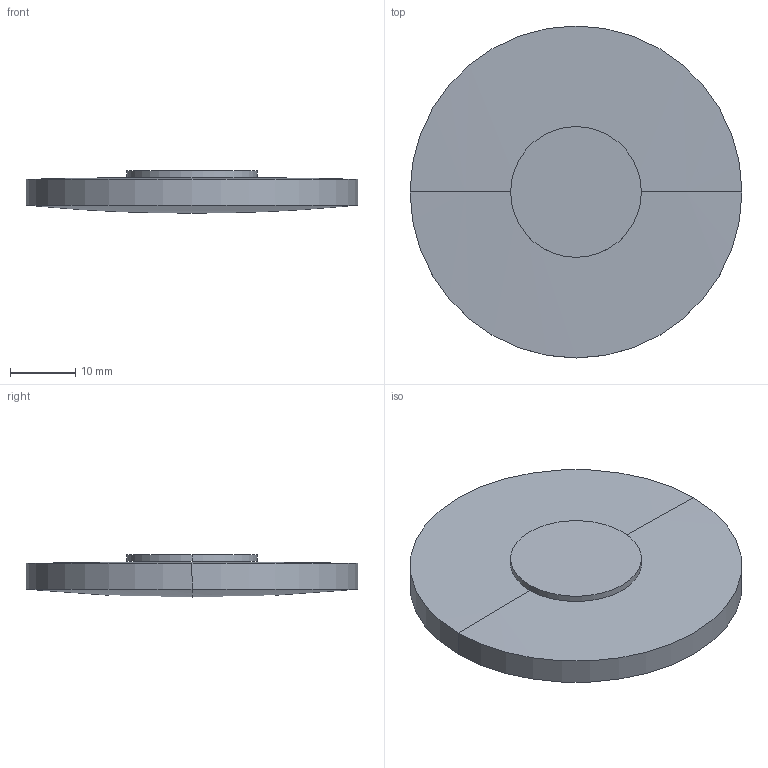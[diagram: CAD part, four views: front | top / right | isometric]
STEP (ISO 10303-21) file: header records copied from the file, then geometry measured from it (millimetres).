
FILE_DESCRIPTION(('STEP AP214'),'1');
FILE_NAME('LLQ-51475.STEP','2020-03-09T17:41:53',(' '),(' '),'Spatial InterOp 3D',' ',' ');
FILE_SCHEMA(('AUTOMOTIVE_DESIGN { 1 0 10303 214 1 1 1 1 }'));
Length unit declared in the file: millimetre
Products named in the file (1): 1
Bounding box: 50.8 x 50.8 x 6.5 mm (x, y, z)
Volume: 9917.8 mm3; surface area: 5384.2 mm2
Topology: 2 solids, 2 shells, 10 faces, 20 edges, 10 vertices
Faces by surface type: sphere 4, cylinder 4, plane 2
Entity records: 255 total; most frequent: DIRECTION 52, CARTESIAN_POINT 38, ORIENTED_EDGE 32, AXIS2_PLACEMENT_3D 24, EDGE_CURVE 16, CIRCLE 12, ADVANCED_FACE 10, FACE_OUTER_BOUND 10
